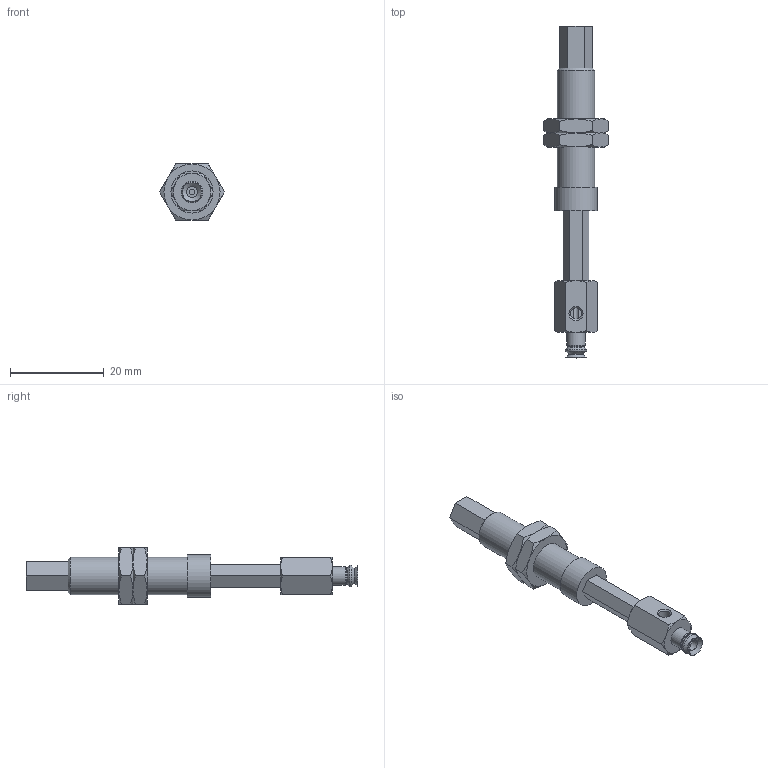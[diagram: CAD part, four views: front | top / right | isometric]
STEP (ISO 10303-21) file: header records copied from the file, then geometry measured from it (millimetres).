
FILE_DESCRIPTION(('STEP AP203'),'1');
FILE_NAME('.stp','2025-04-24T05:20:03',(' '),(' '),'Spatial InterOp 3D',' ',' ');
FILE_SCHEMA(('CONFIG_CONTROL_DESIGN'));
Length unit declared in the file: millimetre
Products named in the file (6): BNABPJYH-4-15-※; CONNECTOR-H-2A-15; Nut-2A-15-h; NAPFTH-2A-15-FBODY; NAPFTH-2A-15-MBODY; BPJG-4-※
Assembly tree (6 placements, depth 2):
  BNABPJYH-4-15-※
    CONNECTOR-H-2A-15
    Nut-2A-15-h  x2
    NAPFTH-2A-15-FBODY
    NAPFTH-2A-15-MBODY
    BPJG-4-※
Bounding box: 13.86 x 71 x 12 mm (x, y, z)
Volume: 3233.3 mm3; surface area: 3913 mm2
Topology: 6 solids, 6 shells, 140 faces, 308 edges, 187 vertices
Faces by surface type: plane 63, cone 54, cylinder 14, torus 9
Full cylindrical faces by diameter (mm): 1.2 x1, 2 x2, 2.4 x1, 2.459 x2, 3 x3, 4 x1, 7.188 x2, 8 x1, 9 x1
Entity records: 3480 total; most frequent: CARTESIAN_POINT 830, DIRECTION 482, ORIENTED_EDGE 428, EDGE_CURVE 214, AXIS2_PLACEMENT_3D 198, EDGE_LOOP 170, VERTEX_POINT 150, FACE_OUTER_BOUND 139
